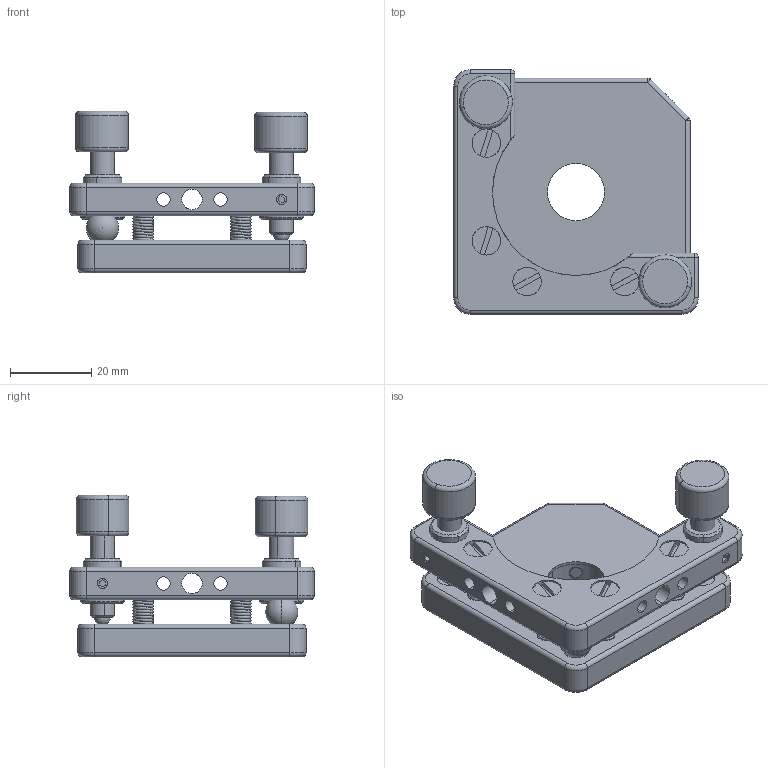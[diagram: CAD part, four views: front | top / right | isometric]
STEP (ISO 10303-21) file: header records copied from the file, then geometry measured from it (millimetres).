
FILE_DESCRIPTION (( 'STEP AP203' ), '1' );
FILE_NAME ('7MM0715謗峎覃淕噩殤.STEP', '2019-10-17T09:04:18', ( '' ), ( '' ), 'SwSTEP 2.0', 'SolidWorks 2014', '' );
FILE_SCHEMA (( 'CONFIG_CONTROL_DESIGN' ));
Length unit declared in the file: millimetre
Products named in the file (1): 7MM0715謗峎覃淕噩殤
Bounding box: 60 x 60 x 39.65 mm (x, y, z)
Surface area: 18581.9 mm2 (no closed solid volume)
Topology: 0 solids, 34 shells, 255 faces, 682 edges, 445 vertices
Faces by surface type: cylinder 110, plane 87, torus 20, cone 16, sphere 14, bspline 8
Entity records: 18710 total; most frequent: CARTESIAN_POINT 12351, DIRECTION 1443, ORIENTED_EDGE 1095, EDGE_CURVE 657, AXIS2_PLACEMENT_3D 588, VERTEX_POINT 436, CIRCLE 340, EDGE_LOOP 306
